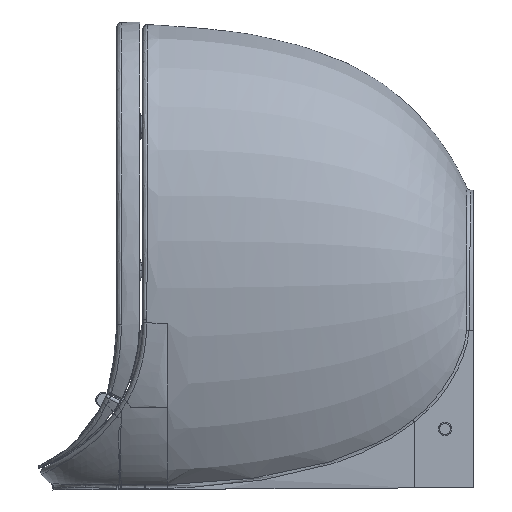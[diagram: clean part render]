
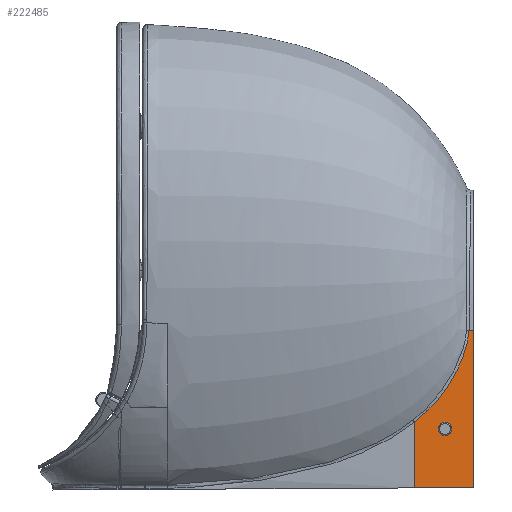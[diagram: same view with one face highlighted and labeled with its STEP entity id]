
A CAD part, left-side view. The second image highlights one B-rep face of the part: STEP entity #222485.
In plain terms, the highlighted planar face has unit normal (-1, 0, 0).
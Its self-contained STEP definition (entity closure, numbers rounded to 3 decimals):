
#1690 = CARTESIAN_POINT ( 'NONE',  ( -104.972, -396.588, 170.711 ) ) ;
#2362 = EDGE_CURVE ( 'NONE', #26903, #134769, #96258, .T. ) ;
#3840 = ORIENTED_EDGE ( 'NONE', *, *, #182445, .F. ) ;
#4359 = CARTESIAN_POINT ( 'NONE',  ( -104.972, -349.244, 94.929 ) ) ;
#5693 = CARTESIAN_POINT ( 'NONE',  ( -104.972, -400.645, 189.436 ) ) ;
#8301 = EDGE_CURVE ( 'NONE', #207745, #108148, #131967, .T. ) ;
#14140 = FACE_OUTER_BOUND ( 'NONE', #240656, .T. ) ;
#24787 = CARTESIAN_POINT ( 'NONE',  ( -104.972, -400.103, 185.873 ) ) ;
#26118 = CARTESIAN_POINT ( 'NONE',  ( -104.972, -371.009, 120.16 ) ) ;
#26903 = VERTEX_POINT ( 'NONE', #82701 ) ;
#28937 = AXIS2_PLACEMENT_3D ( 'NONE', #197819, #114841, #137976 ) ;
#32164 = VERTEX_POINT ( 'NONE', #199851 ) ;
#33256 = EDGE_CURVE ( 'NONE', #32164, #138775, #244486, .T. ) ;
#33978 = DIRECTION ( 'NONE',  ( 0., 0., 1. ) ) ;
#46380 = ORIENTED_EDGE ( 'NONE', *, *, #2362, .T. ) ;
#46536 = CARTESIAN_POINT ( 'NONE',  ( -104.972, -397.901, 175.284 ) ) ;
#61571 = CARTESIAN_POINT ( 'NONE',  ( -104.972, -352.679, 98.264 ) ) ;
#75717 = CARTESIAN_POINT ( 'NONE',  ( -104.972, -406.439, 1.054 ) ) ;
#82701 = CARTESIAN_POINT ( 'NONE',  ( -104.972, -401.111, 194.223 ) ) ;
#84650 = CARTESIAN_POINT ( 'NONE',  ( -104.972, -346.795, 92.551 ) ) ;
#85995 = CARTESIAN_POINT ( 'NONE',  ( -104.972, -399.9, 184.689 ) ) ;
#88013 = CARTESIAN_POINT ( 'NONE',  ( -104.972, -333.815, 0.633 ) ) ;
#88657 = CARTESIAN_POINT ( 'NONE',  ( -104.972, -362.274, 108.856 ) ) ;
#96258 = B_SPLINE_CURVE_WITH_KNOTS ( 'NONE', 3,
 ( #186688, #166302, #5693, #24787, #85995, #128168, #124163, #46536, #1690, #170303, #107745, #190706, #249264, #227510, #253281, #129513, #125491, #207104, #188024, #26118, #109056, #106397, #88657, #144572, #61571, #148581 ),
 .UNSPECIFIED., .F., .F.,
 ( 4, 2, 2, 2, 2, 2, 2, 2, 2, 2, 2, 2, 4 ),
 ( 0., 0.007, 0.011, 0.014, 0.029, 0.043, 0.058, 0.072, 0.076, 0.079, 0.086, 0.101, 0.115 ),
 .UNSPECIFIED. ) ;
#97115 = PLANE ( 'NONE',  #28937 ) ;
#100231 = ORIENTED_EDGE ( 'NONE', *, *, #213275, .F. ) ;
#106397 = CARTESIAN_POINT ( 'NONE',  ( -104.972, -365.289, 112.538 ) ) ;
#107745 = CARTESIAN_POINT ( 'NONE',  ( -104.972, -391.81, 157.356 ) ) ;
#108148 = VERTEX_POINT ( 'NONE', #234390 ) ;
#109056 = CARTESIAN_POINT ( 'NONE',  ( -104.972, -369.605, 118.233 ) ) ;
#113999 = CARTESIAN_POINT ( 'NONE',  ( -104.972, -406.439, 194.223 ) ) ;
#114841 = DIRECTION ( 'NONE',  ( -1., 0., 0. ) ) ;
#122032 = CARTESIAN_POINT ( 'NONE',  ( -104.972, -406.439, 186.108 ) ) ;
#124163 = CARTESIAN_POINT ( 'NONE',  ( -104.972, -399.209, 181.146 ) ) ;
#125491 = CARTESIAN_POINT ( 'NONE',  ( -104.972, -375.073, 126.062 ) ) ;
#128168 = CARTESIAN_POINT ( 'NONE',  ( -104.972, -399.453, 182.326 ) ) ;
#129513 = CARTESIAN_POINT ( 'NONE',  ( -104.972, -375.732, 127.062 ) ) ;
#131967 = LINE ( 'NONE', #153742, #136817 ) ;
#134442 = CARTESIAN_POINT ( 'NONE',  ( -104.972, -401.111, 194.223 ) ) ;
#134769 = VERTEX_POINT ( 'NONE', #182253 ) ;
#136817 = VECTOR ( 'NONE', #33978, 1000. ) ;
#137976 = DIRECTION ( 'NONE',  ( 0., 0., 1. ) ) ;
#138775 = VERTEX_POINT ( 'NONE', #75717 ) ;
#139202 = VECTOR ( 'NONE', #165520, 1000. ) ;
#140791 = VECTOR ( 'NONE', #147157, 1000. ) ;
#144572 = CARTESIAN_POINT ( 'NONE',  ( -104.972, -355.969, 101.719 ) ) ;
#147157 = DIRECTION ( 'NONE',  ( 0., 1., -0.006 ) ) ;
#148581 = CARTESIAN_POINT ( 'NONE',  ( -104.972, -349.244, 94.929 ) ) ;
#149933 = CARTESIAN_POINT ( 'NONE',  ( -104.972, -336.489, 83.621 ) ) ;
#153742 = CARTESIAN_POINT ( 'NONE',  ( -104.972, -333.815, 97.326 ) ) ;
#159018 = ORIENTED_EDGE ( 'NONE', *, *, #33256, .F. ) ;
#161004 = B_SPLINE_CURVE_WITH_KNOTS ( 'NONE', 1,
 ( #134442, #113999 ),
 .UNSPECIFIED., .F., .F.,
 ( 2, 2 ),
 ( 0.239, 1. ),
 .UNSPECIFIED. ) ;
#165520 = DIRECTION ( 'NONE',  ( 0., 0., -1. ) ) ;
#166302 = CARTESIAN_POINT ( 'NONE',  ( -104.972, -400.916, 191.824 ) ) ;
#170303 = CARTESIAN_POINT ( 'NONE',  ( -104.972, -393.542, 161.747 ) ) ;
#182237 = ORIENTED_EDGE ( 'NONE', *, *, #8301, .F. ) ;
#182253 = CARTESIAN_POINT ( 'NONE',  ( -104.972, -349.244, 94.929 ) ) ;
#182445 = EDGE_CURVE ( 'NONE', #138775, #207745, #251851, .T. ) ;
#186688 = CARTESIAN_POINT ( 'NONE',  ( -104.972, -401.111, 194.223 ) ) ;
#188024 = CARTESIAN_POINT ( 'NONE',  ( -104.972, -373.063, 123.093 ) ) ;
#189370 = CARTESIAN_POINT ( 'NONE',  ( -104.972, -344.281, 90.246 ) ) ;
#190706 = CARTESIAN_POINT ( 'NONE',  ( -104.972, -387.993, 148.73 ) ) ;
#192037 = CARTESIAN_POINT ( 'NONE',  ( -104.972, -333.815, 81.5 ) ) ;
#197819 = CARTESIAN_POINT ( 'NONE',  ( -104.972, -333.815, -1.871 ) ) ;
#199851 = CARTESIAN_POINT ( 'NONE',  ( -104.972, -406.439, 194.223 ) ) ;
#207104 = CARTESIAN_POINT ( 'NONE',  ( -104.972, -373.739, 124.078 ) ) ;
#207745 = VERTEX_POINT ( 'NONE', #88013 ) ;
#212357 = CARTESIAN_POINT ( 'NONE',  ( -104.972, -333.8, 0.633 ) ) ;
#213275 = EDGE_CURVE ( 'NONE', #26903, #32164, #161004, .T. ) ;
#216818 = B_SPLINE_CURVE_WITH_KNOTS ( 'NONE', 3,
 ( #4359, #84650, #189370, #231527, #149933, #192037 ),
 .UNSPECIFIED., .F., .F.,
 ( 4, 2, 4 ),
 ( 0., 0.01, 0.02 ),
 .UNSPECIFIED. ) ;
#222485 = ADVANCED_FACE ( 'NONE', ( #14140 ), #97115, .T. ) ;
#227510 = CARTESIAN_POINT ( 'NONE',  ( -104.972, -381.395, 136.17 ) ) ;
#231527 = CARTESIAN_POINT ( 'NONE',  ( -104.972, -339.126, 85.783 ) ) ;
#234390 = CARTESIAN_POINT ( 'NONE',  ( -104.972, -333.815, 81.5 ) ) ;
#240656 = EDGE_LOOP ( 'NONE', ( #3840, #159018, #100231, #46380, #255899, #182237 ) ) ;
#244486 = LINE ( 'NONE', #122032, #139202 ) ;
#249264 = CARTESIAN_POINT ( 'NONE',  ( -104.972, -385.906, 144.494 ) ) ;
#251851 = LINE ( 'NONE', #212357, #140791 ) ;
#253281 = CARTESIAN_POINT ( 'NONE',  ( -104.972, -378.971, 132.081 ) ) ;
#253455 = EDGE_CURVE ( 'NONE', #134769, #108148, #216818, .T. ) ;
#255899 = ORIENTED_EDGE ( 'NONE', *, *, #253455, .T. ) ;
